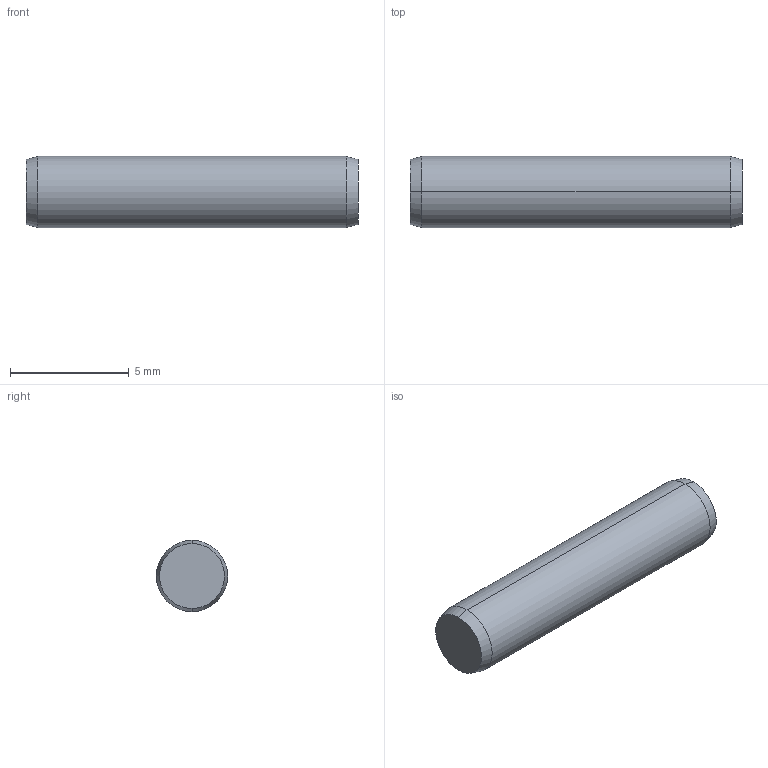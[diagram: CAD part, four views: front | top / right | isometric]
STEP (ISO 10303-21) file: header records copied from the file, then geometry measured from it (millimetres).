
FILE_DESCRIPTION (( 'STEP AP203' ), '1' );
FILE_NAME ('P1206.030-014.step', '2017-06-14T08:04:23', ( 'User' ), ( '' ), 'SwSTEP 2.0', 'SolidWorks 2009', '' );
FILE_SCHEMA (( 'CONFIG_CONTROL_DESIGN' ));
Length unit declared in the file: millimetre
Products named in the file (1): P1206.030-014
Bounding box: 14 x 3 x 3 mm (x, y, z)
Volume: 98.3 mm3; surface area: 143.6 mm2
Topology: 1 solids, 1 shells, 8 faces, 14 edges, 8 vertices
Faces by surface type: cone 4, cylinder 2, plane 2
Entity records: 271 total; most frequent: DIRECTION 40, CARTESIAN_POINT 31, ORIENTED_EDGE 28, AXIS2_PLACEMENT_3D 17, EDGE_CURVE 14, FACE_OUTER_BOUND 8, ADVANCED_FACE 8, CIRCLE 8
